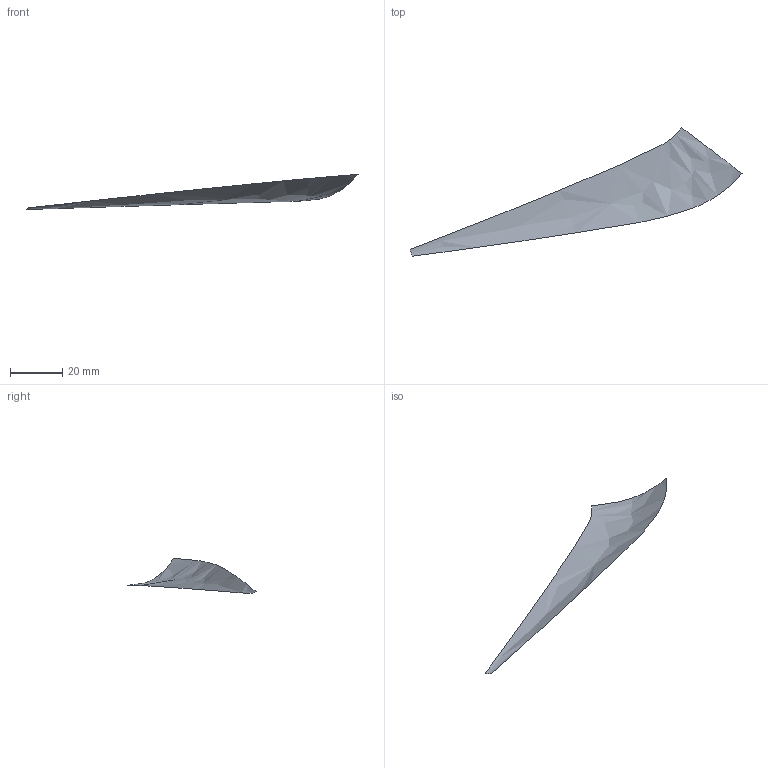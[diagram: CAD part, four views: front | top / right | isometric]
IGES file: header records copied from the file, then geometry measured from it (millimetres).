
Start section: START RECORD GO HERE
Global section: file name: t1.igs; native system: IBM CATIA IGES - CATIA SOLUTIONS V4RELEASE 1.9 REFRESH 01; preprocessor: CATIA SOLUTIONS V4RELEASE 1.9 REFRESH 01; author: cky; date: 990510.133752; units: millimetre
Bounding box: 127.46 x 49.27 x 13.46 mm (x, y, z)
Surface area: 2274.8 mm2 (no closed solid volume)
Topology: 0 solids, 0 shells, 1 faces, 20 edges, 20 vertices
Faces by surface type: bspline 1
